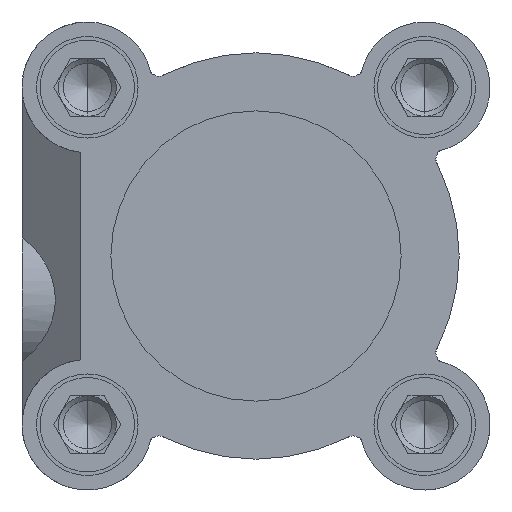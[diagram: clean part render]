
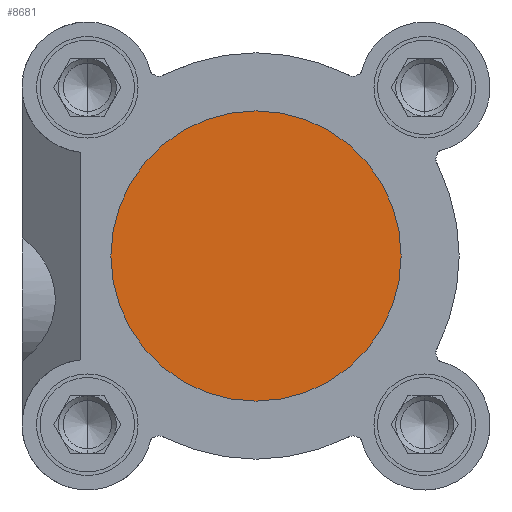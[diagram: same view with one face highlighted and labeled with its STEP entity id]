
A CAD part, left-side view. The second image highlights one B-rep face of the part: STEP entity #8681.
In plain terms, the highlighted planar face has unit normal (-1, 0, 0).
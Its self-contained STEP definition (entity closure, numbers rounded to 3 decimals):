
#128 = VERTEX_POINT ( 'NONE', #10596 ) ;
#244 = EDGE_LOOP ( 'NONE', ( #4944, #3401 ) ) ;
#629 = CARTESIAN_POINT ( 'NONE',  ( -260., 0., 0. ) ) ;
#1071 = EDGE_CURVE ( 'NONE', #1435, #128, #10862, .T. ) ;
#1435 = VERTEX_POINT ( 'NONE', #3198 ) ;
#1662 = PLANE ( 'NONE',  #4136 ) ;
#2001 = EDGE_CURVE ( 'NONE', #128, #1435, #5485, .T. ) ;
#2378 = DIRECTION ( 'NONE',  ( -1., 0., 0. ) ) ;
#3198 = CARTESIAN_POINT ( 'NONE',  ( -260., 0., -20. ) ) ;
#3297 = DIRECTION ( 'NONE',  ( 0., 0., 1. ) ) ;
#3401 = ORIENTED_EDGE ( 'NONE', *, *, #1071, .T. ) ;
#3508 = CARTESIAN_POINT ( 'NONE',  ( -260., 20., 0. ) ) ;
#3641 = AXIS2_PLACEMENT_3D ( 'NONE', #629, #2378, #3297 ) ;
#4136 = AXIS2_PLACEMENT_3D ( 'NONE', #3508, #5245, #7816 ) ;
#4944 = ORIENTED_EDGE ( 'NONE', *, *, #2001, .T. ) ;
#5245 = DIRECTION ( 'NONE',  ( 1., 0., 0. ) ) ;
#5485 = CIRCLE ( 'NONE', #3641, 20. ) ;
#5503 = DIRECTION ( 'NONE',  ( -1., 0., 0. ) ) ;
#7369 = DIRECTION ( 'NONE',  ( 0., 0., 1. ) ) ;
#7589 = CARTESIAN_POINT ( 'NONE',  ( -260., 0., 0. ) ) ;
#7816 = DIRECTION ( 'NONE',  ( 0., 0., -1. ) ) ;
#7983 = FACE_OUTER_BOUND ( 'NONE', #244, .T. ) ;
#8281 = AXIS2_PLACEMENT_3D ( 'NONE', #7589, #5503, #7369 ) ;
#8681 = ADVANCED_FACE ( 'NONE', ( #7983 ), #1662, .F. ) ;
#10596 = CARTESIAN_POINT ( 'NONE',  ( -260., 0., 20. ) ) ;
#10862 = CIRCLE ( 'NONE', #8281, 20. ) ;
